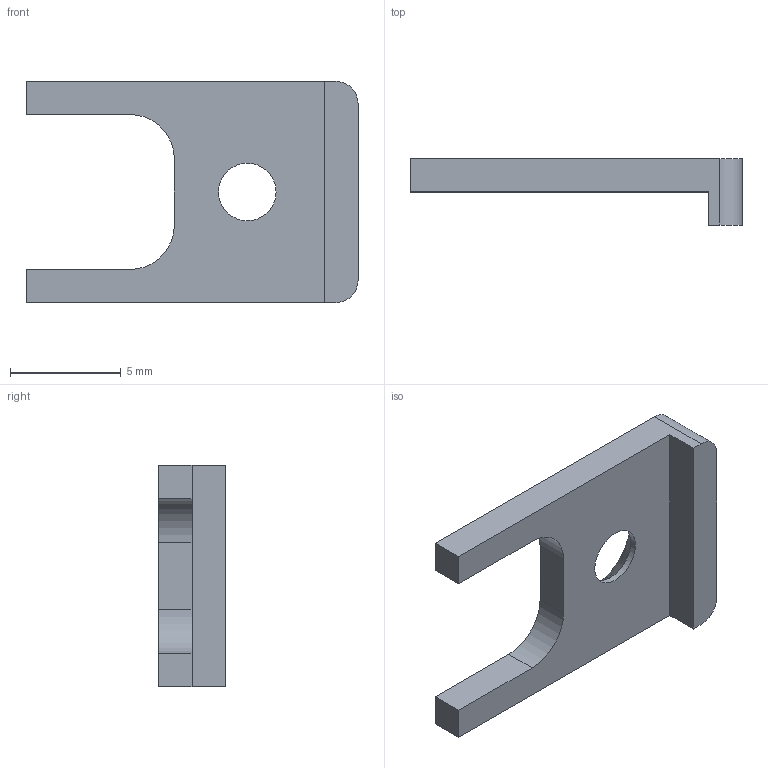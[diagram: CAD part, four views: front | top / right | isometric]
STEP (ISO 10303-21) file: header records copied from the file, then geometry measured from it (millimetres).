
FILE_DESCRIPTION (( 'STEP AP203' ), '1' );
FILE_NAME ('RM08_bracket.STEP', '2023-10-12T06:35:58', ( '' ), ( '' ), 'SwSTEP 2.0', 'SolidWorks 2022', '' );
FILE_SCHEMA (( 'CONFIG_CONTROL_DESIGN' ));
Length unit declared in the file: millimetre
Products named in the file (1): RM08_bracket
Bounding box: 15 x 3 x 10 mm (x, y, z)
Volume: 162.8 mm3; surface area: 331 mm2
Topology: 1 solids, 1 shells, 20 faces, 54 edges, 36 vertices
Faces by surface type: plane 12, cylinder 6, cone 2
Entity records: 715 total; most frequent: DIRECTION 112, CARTESIAN_POINT 111, ORIENTED_EDGE 108, EDGE_CURVE 54, LINE 38, VECTOR 38, AXIS2_PLACEMENT_3D 37, VERTEX_POINT 36
